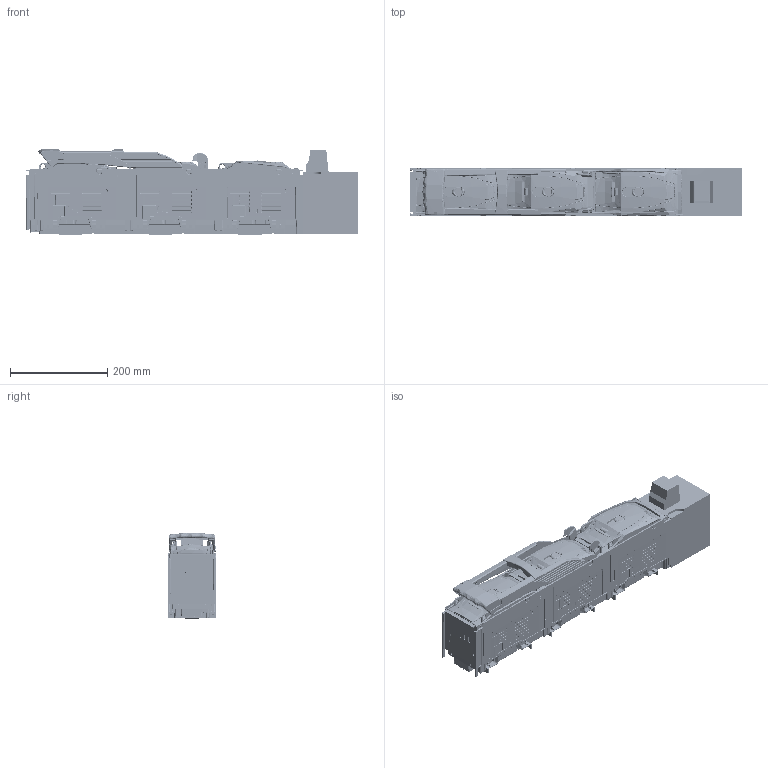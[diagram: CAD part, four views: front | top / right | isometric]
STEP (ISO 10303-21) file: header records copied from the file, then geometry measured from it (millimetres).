
FILE_DESCRIPTION(/* description */ (''),/* implementation_level */ '2;1');
FILE_NAME(/* name */ 'ARS 400-6-2V.stp',/* time_stamp */ '2018-07-16T09:36:21+02:00',/* author */ (''),/* organization */ (''),/* preprocessor_version */ 'ST-DEVELOPER v16',/* originating_system */ 'SIEMENS PLM Software NX 10.0',/* authorisation */ '');
FILE_SCHEMA (('AUTOMOTIVE_DESIGN { 1 0 10303 214 3 1 1 1 }'));
Products named in the file (1): 710_0AD4EC05y3h6
Bounding box: 684.35 x 99.57 x 177.49 mm (x, y, z)
Volume: 7734826 mm3; surface area: 730459.2 mm2
Topology: 1 solids, 20 shells, 15572 faces, 40923 edges, 25285 vertices
Faces by surface type: plane 5598, bspline 4412, cylinder 4008, torus 469, cone 455, sphere 333, extrusion 295, revolution 2
Full cylindrical faces by diameter (mm): 1.7 x12, 2.263 x2, 2.5 x3, 2.9 x1, 3 x4, 3.1 x1, 3.5 x4, 3.7 x4, 4.9 x3, 5 x1, 5.2 x3, 5.6 x1, 6 x2, 6.5 x2, 7.228 x1, 8 x1, 8.228 x1, 9.5 x4, 12 x6, 14 x1
Entity records: 684086 total; most frequent: CARTESIAN_POINT 300284, ORIENTED_EDGE 80836, DIRECTION 57488, EDGE_CURVE 40418, VERTEX_POINT 25228, VECTOR 19274, AXIS2_PLACEMENT_3D 19106, LINE 18979
